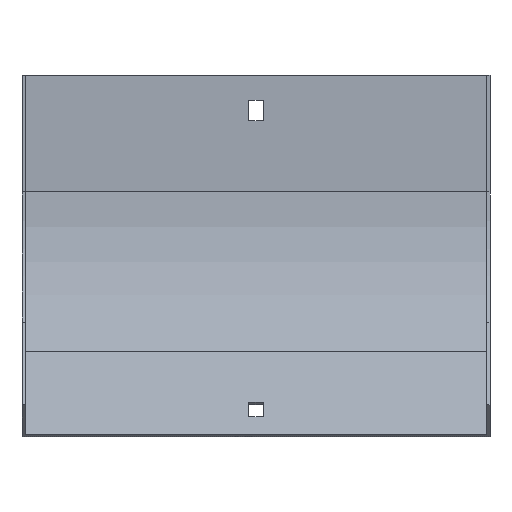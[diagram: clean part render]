
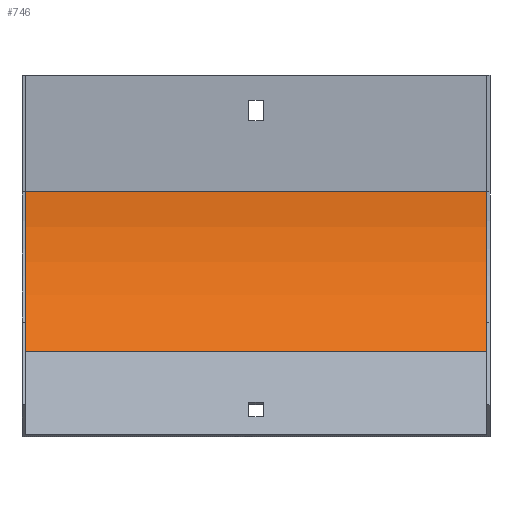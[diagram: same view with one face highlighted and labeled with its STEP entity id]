
A CAD part, front view. The second image highlights one B-rep face of the part: STEP entity #746.
In plain terms, the highlighted cylindrical face has radius 100 mm (diameter 200 mm), a partial arc.
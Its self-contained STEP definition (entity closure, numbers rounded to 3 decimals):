
#23 = VERTEX_POINT ( 'NONE', #336 ) ;
#25 = CARTESIAN_POINT ( 'NONE',  ( 103.5, -101.5, -51.54 ) ) ;
#33 = VERTEX_POINT ( 'NONE', #791 ) ;
#52 = EDGE_LOOP ( 'NONE', ( #138, #440, #578, #445 ) ) ;
#76 = VERTEX_POINT ( 'NONE', #731 ) ;
#82 = DIRECTION ( 'NONE',  ( 0., 0., 1. ) ) ;
#107 = CIRCLE ( 'NONE', #591, 100. ) ;
#138 = ORIENTED_EDGE ( 'NONE', *, *, #155, .F. ) ;
#143 = DIRECTION ( 'NONE',  ( 1., 0., 0. ) ) ;
#152 = LINE ( 'NONE', #559, #847 ) ;
#155 = EDGE_CURVE ( 'NONE', #76, #23, #396, .T. ) ;
#170 = CYLINDRICAL_SURFACE ( 'NONE', #296, 100. ) ;
#296 = AXIS2_PLACEMENT_3D ( 'NONE', #25, #751, #627 ) ;
#336 = CARTESIAN_POINT ( 'NONE',  ( -102., -1.5, -51.54 ) ) ;
#368 = DIRECTION ( 'NONE',  ( -1., 0., 0. ) ) ;
#370 = CARTESIAN_POINT ( 'NONE',  ( -102., -101.5, -51.54 ) ) ;
#396 = CIRCLE ( 'NONE', #419, 100. ) ;
#419 = AXIS2_PLACEMENT_3D ( 'NONE', #370, #143, #563 ) ;
#431 = CARTESIAN_POINT ( 'NONE',  ( 102., -101.5, -51.54 ) ) ;
#440 = ORIENTED_EDGE ( 'NONE', *, *, #773, .F. ) ;
#445 = ORIENTED_EDGE ( 'NONE', *, *, #737, .T. ) ;
#507 = VECTOR ( 'NONE', #368, 1000. ) ;
#515 = CARTESIAN_POINT ( 'NONE',  ( 102., -30.789, -122.251 ) ) ;
#524 = VERTEX_POINT ( 'NONE', #515 ) ;
#559 = CARTESIAN_POINT ( 'NONE',  ( 103.5, -1.5, -51.54 ) ) ;
#563 = DIRECTION ( 'NONE',  ( 0., 0., 1. ) ) ;
#578 = ORIENTED_EDGE ( 'NONE', *, *, #752, .T. ) ;
#591 = AXIS2_PLACEMENT_3D ( 'NONE', #431, #761, #82 ) ;
#615 = LINE ( 'NONE', #695, #507 ) ;
#627 = DIRECTION ( 'NONE',  ( 0., 0., 1. ) ) ;
#683 = FACE_OUTER_BOUND ( 'NONE', #52, .T. ) ;
#695 = CARTESIAN_POINT ( 'NONE',  ( 103.5, -30.789, -122.251 ) ) ;
#731 = CARTESIAN_POINT ( 'NONE',  ( -102., -30.789, -122.251 ) ) ;
#737 = EDGE_CURVE ( 'NONE', #33, #23, #152, .T. ) ;
#746 = ADVANCED_FACE ( 'NONE', ( #683 ), #170, .F. ) ;
#751 = DIRECTION ( 'NONE',  ( -1., 0., 0. ) ) ;
#752 = EDGE_CURVE ( 'NONE', #524, #33, #107, .T. ) ;
#761 = DIRECTION ( 'NONE',  ( 1., 0., 0. ) ) ;
#765 = DIRECTION ( 'NONE',  ( -1., 0., 0. ) ) ;
#773 = EDGE_CURVE ( 'NONE', #524, #76, #615, .T. ) ;
#791 = CARTESIAN_POINT ( 'NONE',  ( 102., -1.5, -51.54 ) ) ;
#847 = VECTOR ( 'NONE', #765, 1000. ) ;
